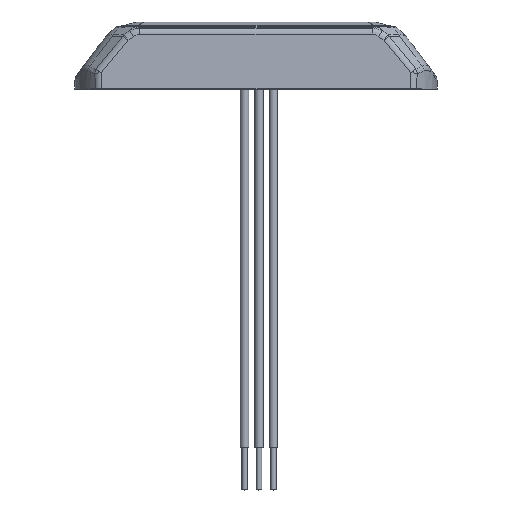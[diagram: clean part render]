
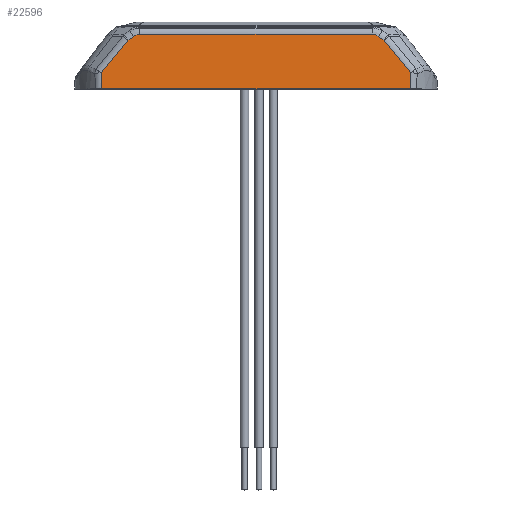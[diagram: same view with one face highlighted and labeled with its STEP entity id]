
A CAD part, top view. The second image highlights one B-rep face of the part: STEP entity #22596.
In plain terms, the highlighted planar face has unit normal (0, -0.052, -0.999).
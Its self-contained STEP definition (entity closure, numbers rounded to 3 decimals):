
#22549=AXIS2_PLACEMENT_3D('Plane Axis2P3D',#22546,#22547,#22548) ;
#20853=CARTESIAN_POINT('Vertex',(-50.41,18.984,13.178)) ;
#20857=CARTESIAN_POINT('Control Point',(-51.763,18.104,13.224)) ;
#20858=CARTESIAN_POINT('Control Point',(-51.312,18.397,13.209)) ;
#20859=CARTESIAN_POINT('Control Point',(-50.861,18.69,13.193)) ;
#20860=CARTESIAN_POINT('Control Point',(-50.41,18.984,13.178)) ;
#20861=CARTESIAN_POINT('Vertex',(-51.763,18.104,13.224)) ;
#20929=CARTESIAN_POINT('Vertex',(-48.984,19.534,13.149)) ;
#20933=CARTESIAN_POINT('Control Point',(-50.41,18.984,13.178)) ;
#20934=CARTESIAN_POINT('Control Point',(-50.042,19.223,13.165)) ;
#20935=CARTESIAN_POINT('Control Point',(-49.674,19.426,13.155)) ;
#20936=CARTESIAN_POINT('Control Point',(-49.329,19.534,13.149)) ;
#20937=CARTESIAN_POINT('Control Point',(-48.984,19.534,13.149)) ;
#20955=CARTESIAN_POINT('Vertex',(6.264,19.534,13.149)) ;
#20958=CARTESIAN_POINT('Line Origine',(-49.197,19.534,13.149)) ;
#21022=CARTESIAN_POINT('Vertex',(7.69,18.984,13.178)) ;
#21026=CARTESIAN_POINT('Control Point',(6.264,19.534,13.149)) ;
#21027=CARTESIAN_POINT('Control Point',(6.609,19.534,13.149)) ;
#21028=CARTESIAN_POINT('Control Point',(6.954,19.426,13.155)) ;
#21029=CARTESIAN_POINT('Control Point',(7.322,19.223,13.165)) ;
#21030=CARTESIAN_POINT('Control Point',(7.69,18.984,13.178)) ;
#21123=CARTESIAN_POINT('Vertex',(9.043,18.104,13.224)) ;
#21127=CARTESIAN_POINT('Control Point',(7.69,18.984,13.178)) ;
#21128=CARTESIAN_POINT('Control Point',(8.141,18.69,13.193)) ;
#21129=CARTESIAN_POINT('Control Point',(8.592,18.397,13.209)) ;
#21130=CARTESIAN_POINT('Control Point',(9.043,18.104,13.224)) ;
#22546=CARTESIAN_POINT('Axis2P3D Location',(85.566,21.338,13.055)) ;
#22551=CARTESIAN_POINT('Line Origine',(12.205,14.238,13.427)) ;
#22555=CARTESIAN_POINT('Vertex',(15.367,10.372,13.629)) ;
#22558=CARTESIAN_POINT('Line Origine',(15.281,8.461,13.729)) ;
#22562=CARTESIAN_POINT('Vertex',(15.195,6.55,13.83)) ;
#22565=CARTESIAN_POINT('Line Origine',(-21.36,6.55,13.83)) ;
#22569=CARTESIAN_POINT('Vertex',(-57.915,6.55,13.83)) ;
#22572=CARTESIAN_POINT('Line Origine',(-58.001,8.461,13.729)) ;
#22576=CARTESIAN_POINT('Vertex',(-58.087,10.372,13.629)) ;
#22579=CARTESIAN_POINT('Line Origine',(-54.925,14.238,13.427)) ;
#20959=DIRECTION('Vector Direction',(1.,0.,0.)) ;
#22547=DIRECTION('Axis2P3D Direction',(-0.,-0.052,-0.999)) ;
#22548=DIRECTION('Axis2P3D XDirection',(-1.,0.,0.)) ;
#22552=DIRECTION('Vector Direction',(0.633,-0.773,0.041)) ;
#22559=DIRECTION('Vector Direction',(-0.045,-0.998,0.052)) ;
#22566=DIRECTION('Vector Direction',(1.,0.,0.)) ;
#22573=DIRECTION('Vector Direction',(-0.045,0.998,-0.052)) ;
#22580=DIRECTION('Vector Direction',(0.633,0.773,-0.041)) ;
#20960=VECTOR('Line Direction',#20959,1.) ;
#22553=VECTOR('Line Direction',#22552,1.) ;
#22560=VECTOR('Line Direction',#22559,1.) ;
#22567=VECTOR('Line Direction',#22566,1.) ;
#22574=VECTOR('Line Direction',#22573,1.) ;
#22581=VECTOR('Line Direction',#22580,1.) ;
#22585=ORIENTED_EDGE('',*,*,#20962,.F.) ;
#22586=ORIENTED_EDGE('',*,*,#21031,.T.) ;
#22587=ORIENTED_EDGE('',*,*,#21131,.T.) ;
#22588=ORIENTED_EDGE('',*,*,#22557,.T.) ;
#22589=ORIENTED_EDGE('',*,*,#22564,.T.) ;
#22590=ORIENTED_EDGE('',*,*,#22571,.F.) ;
#22591=ORIENTED_EDGE('',*,*,#22578,.T.) ;
#22592=ORIENTED_EDGE('',*,*,#22583,.T.) ;
#22593=ORIENTED_EDGE('',*,*,#20863,.T.) ;
#22594=ORIENTED_EDGE('',*,*,#20938,.T.) ;
#22596=ADVANCED_FACE('CLOSED_SHELL #45334',(#22595),#22550,.T.) ;
#20856=B_SPLINE_CURVE_WITH_KNOTS('',3,(#20857,#20858,#20859,#20860),.UNSPECIFIED.,.F.,.U.,(4,4),(0.,2.282),.UNSPECIFIED.) ;
#20932=B_SPLINE_CURVE_WITH_KNOTS('',4,(#20933,#20934,#20935,#20936,#20937),.UNSPECIFIED.,.F.,.U.,(5,5),(0.,2.607),.UNSPECIFIED.) ;
#21025=B_SPLINE_CURVE_WITH_KNOTS('',4,(#21026,#21027,#21028,#21029,#21030),.UNSPECIFIED.,.F.,.U.,(5,5),(0.,2.607),.UNSPECIFIED.) ;
#21126=B_SPLINE_CURVE_WITH_KNOTS('',3,(#21127,#21128,#21129,#21130),.UNSPECIFIED.,.F.,.U.,(4,4),(0.,2.282),.UNSPECIFIED.) ;
#20863=EDGE_CURVE('',#20862,#20854,#20856,.T.) ;
#20938=EDGE_CURVE('',#20854,#20930,#20932,.T.) ;
#20962=EDGE_CURVE('',#20956,#20930,#20961,.F.) ;
#21031=EDGE_CURVE('',#20956,#21023,#21025,.T.) ;
#21131=EDGE_CURVE('',#21023,#21124,#21126,.T.) ;
#22557=EDGE_CURVE('',#21124,#22556,#22554,.T.) ;
#22564=EDGE_CURVE('',#22556,#22563,#22561,.T.) ;
#22571=EDGE_CURVE('',#22570,#22563,#22568,.T.) ;
#22578=EDGE_CURVE('',#22570,#22577,#22575,.T.) ;
#22583=EDGE_CURVE('',#22577,#20862,#22582,.T.) ;
#22584=EDGE_LOOP('',(#22585,#22586,#22587,#22588,#22589,#22590,#22591,#22592,#22593,#22594)) ;
#22595=FACE_OUTER_BOUND('',#22584,.T.) ;
#20961=LINE('Line',#20958,#20960) ;
#22554=LINE('Line',#22551,#22553) ;
#22561=LINE('Line',#22558,#22560) ;
#22568=LINE('Line',#22565,#22567) ;
#22575=LINE('Line',#22572,#22574) ;
#22582=LINE('Line',#22579,#22581) ;
#22550=PLANE('',#22549) ;
#20854=VERTEX_POINT('',#20853) ;
#20862=VERTEX_POINT('',#20861) ;
#20930=VERTEX_POINT('',#20929) ;
#20956=VERTEX_POINT('',#20955) ;
#21023=VERTEX_POINT('',#21022) ;
#21124=VERTEX_POINT('',#21123) ;
#22556=VERTEX_POINT('',#22555) ;
#22563=VERTEX_POINT('',#22562) ;
#22570=VERTEX_POINT('',#22569) ;
#22577=VERTEX_POINT('',#22576) ;
